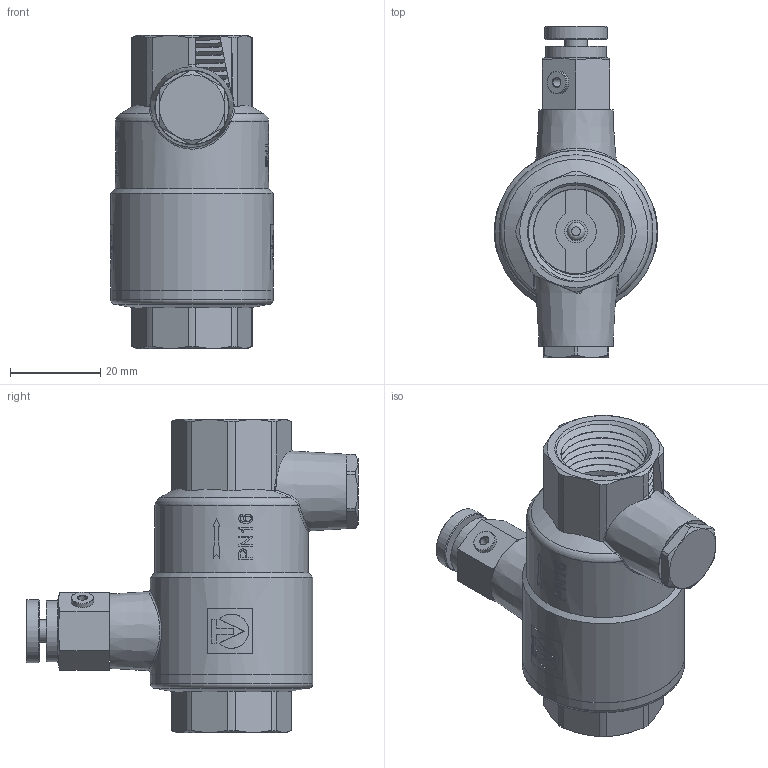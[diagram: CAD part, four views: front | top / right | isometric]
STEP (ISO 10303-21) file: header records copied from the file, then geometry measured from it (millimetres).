
FILE_DESCRIPTION(/* description */ (''),/* implementation_level */ '2;1');
FILE_NAME(/* name */ 'F:\Артём\00000\Работа удаленка\═╝╓╜\VT.171\VT.171.N.04.stp',/* time_stamp */ '2021-04-01T15:19:46+03:00',/* author */ ('almis'),/* organization */ (''),/* preprocessor_version */ 'ST-DEVELOPER v18',/* originating_system */ 'Autodesk Inventor 2020',/* authorisation */ '');
FILE_SCHEMA (('AUTOMOTIVE_DESIGN { 1 0 10303 214 3 1 1 }'));
Length unit declared in the file: millimetre
Products named in the file (1): VT.171.N.04
Bounding box: 36.2 x 73.65 x 69.5 mm (x, y, z)
Volume: 32206.1 mm3; surface area: 26203.2 mm2
Topology: 3 solids, 3 shells, 377 faces, 1016 edges, 692 vertices
Faces by surface type: plane 192, cylinder 97, bspline 55, cone 23, torus 10
Full cylindrical faces by diameter (mm): 2 x1, 4 x2, 5 x6, 10 x1, 11 x1, 11.5 x2, 13 x1, 13.5 x1, 13.6 x2, 14 x1, 16 x1, 16.3 x1, 18.6 x6, 18.8 x6, 19 x1, 25 x2, 26.5 x2, 27.3 x1, 28 x1, 30.5 x1, 32.4 x2, 33.1 x1, 34 x1, 35.399 x1, 36 x2
Entity records: 18299 total; most frequent: CARTESIAN_POINT 8891, ORIENTED_EDGE 2032, DIRECTION 1880, EDGE_CURVE 1016, AXIS2_PLACEMENT_3D 737, VERTEX_POINT 692, EDGE_LOOP 434, LINE 406
